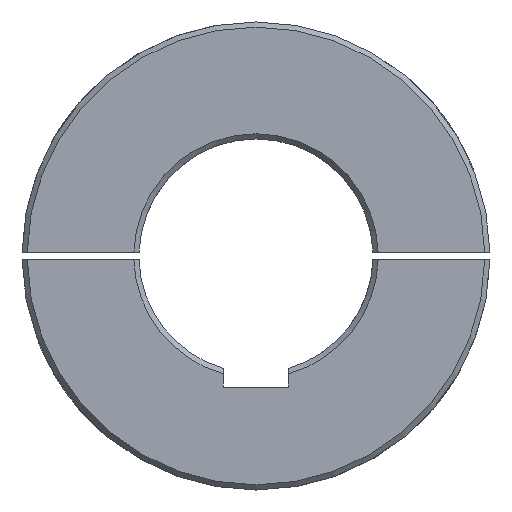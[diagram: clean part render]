
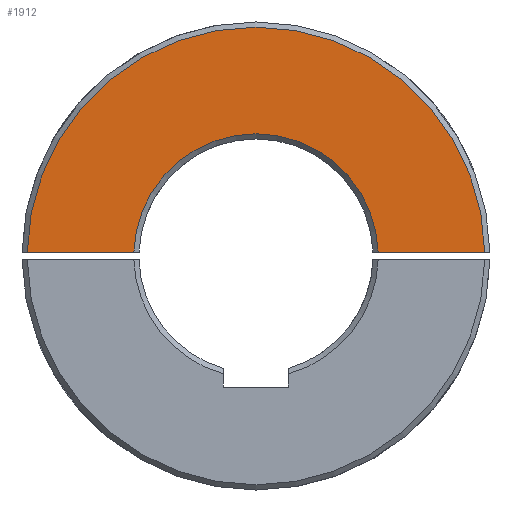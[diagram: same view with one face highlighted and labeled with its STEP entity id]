
A CAD part, front view. The second image highlights one B-rep face of the part: STEP entity #1912.
In plain terms, the highlighted planar face has unit normal (0, -1, 0).
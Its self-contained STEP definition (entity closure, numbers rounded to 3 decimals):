
#28 = AXIS2_PLACEMENT_3D ( 'NONE', #34, #1875, #4100 ) ;
#34 = CARTESIAN_POINT ( 'NONE',  ( 0., 0., 0. ) ) ;
#413 = CIRCLE ( 'NONE', #28, 47. ) ;
#690 = DIRECTION ( 'NONE',  ( 0., 1., 0. ) ) ;
#951 = CARTESIAN_POINT ( 'NONE',  ( -87.987, 0., 1.5 ) ) ;
#1007 = LINE ( 'NONE', #2845, #1450 ) ;
#1103 = CARTESIAN_POINT ( 'NONE',  ( 0., 0., 0. ) ) ;
#1225 = ORIENTED_EDGE ( 'NONE', *, *, #1510, .T. ) ;
#1330 = LINE ( 'NONE', #3798, #4067 ) ;
#1376 = ORIENTED_EDGE ( 'NONE', *, *, #1504, .T. ) ;
#1424 = CARTESIAN_POINT ( 'NONE',  ( -46.976, 0., 1.5 ) ) ;
#1450 = VECTOR ( 'NONE', #2416, 1000. ) ;
#1504 = EDGE_CURVE ( 'NONE', #4260, #1981, #413, .T. ) ;
#1510 = EDGE_CURVE ( 'NONE', #3896, #3923, #4581, .T. ) ;
#1532 = DIRECTION ( 'NONE',  ( 0., 0., 1. ) ) ;
#1731 = PLANE ( 'NONE',  #4507 ) ;
#1875 = DIRECTION ( 'NONE',  ( 0., 1., 0. ) ) ;
#1912 = ADVANCED_FACE ( 'NONE', ( #4345 ), #1731, .F. ) ;
#1981 = VERTEX_POINT ( 'NONE', #2625 ) ;
#2139 = ORIENTED_EDGE ( 'NONE', *, *, #2811, .F. ) ;
#2416 = DIRECTION ( 'NONE',  ( -1., 0., 0. ) ) ;
#2576 = DIRECTION ( 'NONE',  ( 0., -1., 0. ) ) ;
#2625 = CARTESIAN_POINT ( 'NONE',  ( 46.976, 0., 1.5 ) ) ;
#2811 = EDGE_CURVE ( 'NONE', #4260, #3923, #1330, .T. ) ;
#2845 = CARTESIAN_POINT ( 'NONE',  ( 95., 0., 1.5 ) ) ;
#3119 = DIRECTION ( 'NONE',  ( -1., 0., 0. ) ) ;
#3203 = CARTESIAN_POINT ( 'NONE',  ( 0., 0., 0. ) ) ;
#3558 = EDGE_LOOP ( 'NONE', ( #1225, #2139, #1376, #3794 ) ) ;
#3720 = EDGE_CURVE ( 'NONE', #3896, #1981, #1007, .T. ) ;
#3794 = ORIENTED_EDGE ( 'NONE', *, *, #3720, .F. ) ;
#3798 = CARTESIAN_POINT ( 'NONE',  ( 95., 0., 1.5 ) ) ;
#3892 = AXIS2_PLACEMENT_3D ( 'NONE', #1103, #2576, #1532 ) ;
#3896 = VERTEX_POINT ( 'NONE', #4553 ) ;
#3923 = VERTEX_POINT ( 'NONE', #951 ) ;
#3959 = DIRECTION ( 'NONE',  ( 0., 0., 1. ) ) ;
#4067 = VECTOR ( 'NONE', #3119, 1000. ) ;
#4100 = DIRECTION ( 'NONE',  ( 0., 0., 1. ) ) ;
#4260 = VERTEX_POINT ( 'NONE', #1424 ) ;
#4345 = FACE_OUTER_BOUND ( 'NONE', #3558, .T. ) ;
#4507 = AXIS2_PLACEMENT_3D ( 'NONE', #3203, #690, #3959 ) ;
#4553 = CARTESIAN_POINT ( 'NONE',  ( 87.987, 0., 1.5 ) ) ;
#4581 = CIRCLE ( 'NONE', #3892, 88. ) ;
